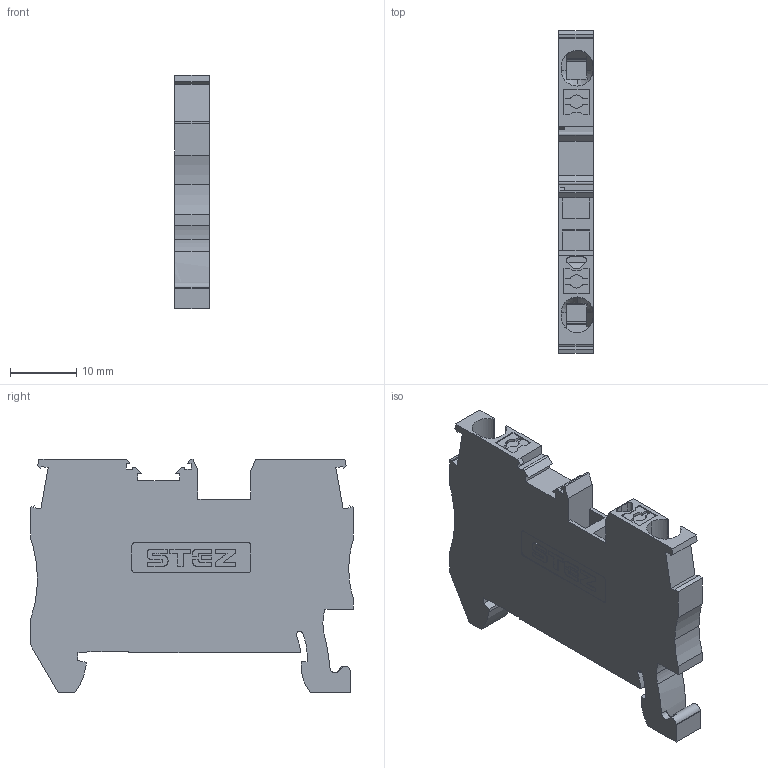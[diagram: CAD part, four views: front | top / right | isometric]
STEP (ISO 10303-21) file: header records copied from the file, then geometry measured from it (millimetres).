
FILE_DESCRIPTION(('TFLEX Exchange Step'),'2;1');
FILE_NAME('14000011_КНБ_2,5-2-С.stp', '2025-06-24T10:37:24+03:00',('MVarava'),('Unknown organisation'),'TFLEX Exchange 2023.0','T-FLEX CAD','Unknown authorisation');
FILE_SCHEMA( ('AUTOMOTIVE_DESIGN { 1 0 10303 214 1 1 1 1 }') );
Length unit declared in the file: millimetre
Products named in the file (1): Nodes
Bounding box: 5.15 x 48.8 x 35.35 mm (x, y, z)
Volume: 6062 mm3; surface area: 4692.9 mm2
Topology: 1 solids, 1 shells, 407 faces, 1198 edges, 803 vertices
Faces by surface type: cylinder 202, plane 199, cone 4, extrusion 2
Entity records: 14299 total; most frequent: CARTESIAN_POINT 3175, ORIENTED_EDGE 2396, DIRECTION 2309, EDGE_CURVE 1198, VERTEX_POINT 803, AXIS2_PLACEMENT_3D 800, VECTOR 709, LINE 707
